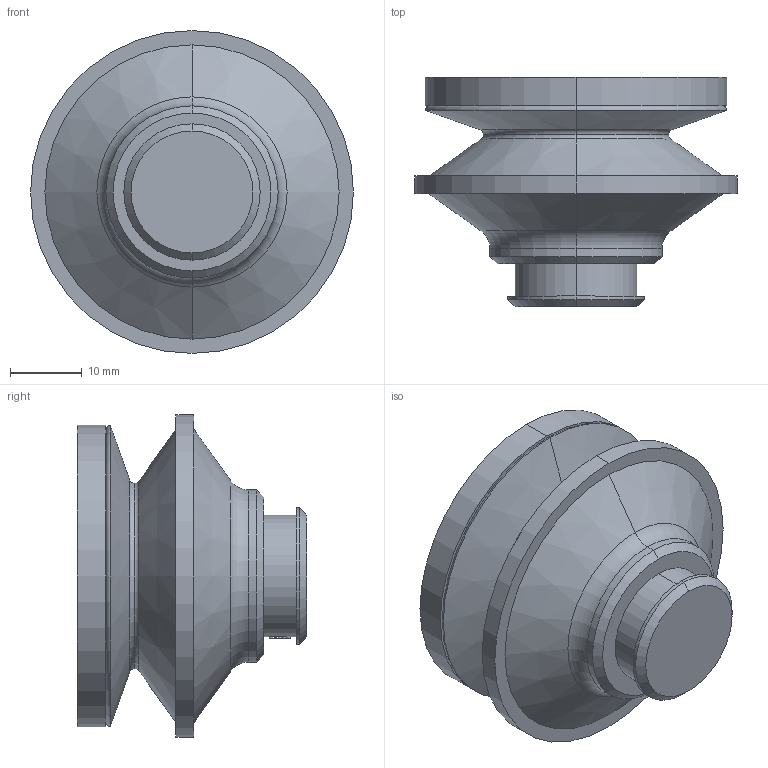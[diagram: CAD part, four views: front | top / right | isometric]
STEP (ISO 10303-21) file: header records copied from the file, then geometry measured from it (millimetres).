
FILE_DESCRIPTION (( 'STEP AP203' ), '1' );
FILE_NAME ('0321632.STEP', '2022-12-19T09:49:16', ( '' ), ( '' ), 'SwSTEP 2.0', 'SolidWorks 2022', '' );
FILE_SCHEMA (( 'CONFIG_CONTROL_DESIGN' ));
Length unit declared in the file: millimetre
Products named in the file (2): Copy of 0321632-AS01^0321632; 0321632
Assembly tree (1 placements, depth 2):
  0321632
    Copy of 0321632-AS01^0321632
Bounding box: 45 x 32 x 45 mm (x, y, z)
Volume: 24141.4 mm3; surface area: 9191.8 mm2
Topology: 2 solids, 2 shells, 81 faces, 168 edges, 106 vertices
Faces by surface type: cylinder 26, bspline 24, cone 12, torus 10, plane 9
Entity records: 3460 total; most frequent: CARTESIAN_POINT 1715, ORIENTED_EDGE 336, DIRECTION 270, EDGE_CURVE 168, AXIS2_PLACEMENT_3D 121, VERTEX_POINT 106, EDGE_LOOP 98, FACE_OUTER_BOUND 81
